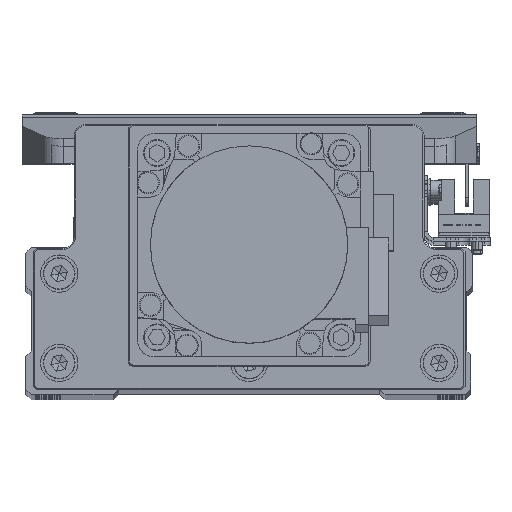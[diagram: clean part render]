
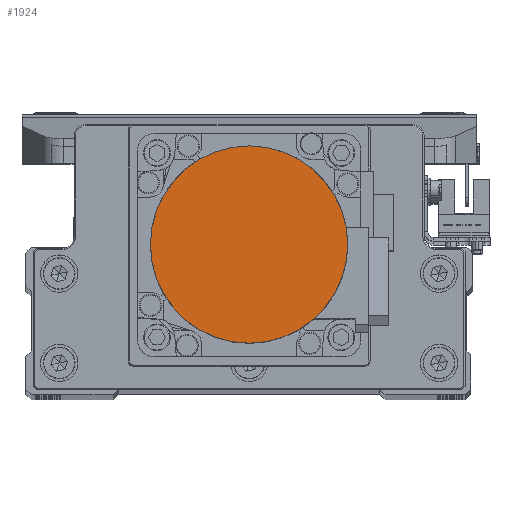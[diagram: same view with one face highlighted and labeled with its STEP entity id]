
A CAD part, top view. The second image highlights one B-rep face of the part: STEP entity #1924.
In plain terms, the highlighted planar face has unit normal (0, 0, 1) as drawn and (0, 0, -1) by its records, which use the part's own axes.
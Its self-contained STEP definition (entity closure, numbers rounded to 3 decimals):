
#334 = VERTEX_POINT ( 'NONE', #38545 ) ;
#1924 = ADVANCED_FACE ( 'NONE', ( #40523 ), #9786, .F. ) ;
#4883 = CARTESIAN_POINT ( 'NONE',  ( 0., 0., -109.7 ) ) ;
#6417 = DIRECTION ( 'NONE',  ( 1., 0., 0. ) ) ;
#9786 = PLANE ( 'NONE',  #20149 ) ;
#11329 = ORIENTED_EDGE ( 'NONE', *, *, #33981, .F. ) ;
#16539 = CARTESIAN_POINT ( 'NONE',  ( 0., 0., -109.7 ) ) ;
#17565 = VERTEX_POINT ( 'NONE', #40092 ) ;
#18579 = DIRECTION ( 'NONE',  ( 0., 0., 1. ) ) ;
#20149 = AXIS2_PLACEMENT_3D ( 'NONE', #23480, #37167, #6417 ) ;
#22183 = AXIS2_PLACEMENT_3D ( 'NONE', #16539, #30226, #43904 ) ;
#23480 = CARTESIAN_POINT ( 'NONE',  ( 0., 0., -109.7 ) ) ;
#24557 = EDGE_LOOP ( 'NONE', ( #11329, #25667 ) ) ;
#25667 = ORIENTED_EDGE ( 'NONE', *, *, #28962, .F. ) ;
#28962 = EDGE_CURVE ( 'NONE', #17565, #334, #41517, .T. ) ;
#30226 = DIRECTION ( 'NONE',  ( 0., 0., 1. ) ) ;
#32265 = DIRECTION ( 'NONE',  ( -1., 0., 0. ) ) ;
#33981 = EDGE_CURVE ( 'NONE', #334, #17565, #43920, .T. ) ;
#37167 = DIRECTION ( 'NONE',  ( 0., 0., 1. ) ) ;
#38545 = CARTESIAN_POINT ( 'NONE',  ( -26.5, 0., -109.7 ) ) ;
#40092 = CARTESIAN_POINT ( 'NONE',  ( 26.5, 0., -109.7 ) ) ;
#40523 = FACE_OUTER_BOUND ( 'NONE', #24557, .T. ) ;
#41517 = CIRCLE ( 'NONE', #22183, 26.5 ) ;
#43038 = AXIS2_PLACEMENT_3D ( 'NONE', #4883, #18579, #32265 ) ;
#43904 = DIRECTION ( 'NONE',  ( 1., 0., 0. ) ) ;
#43920 = CIRCLE ( 'NONE', #43038, 26.5 ) ;
